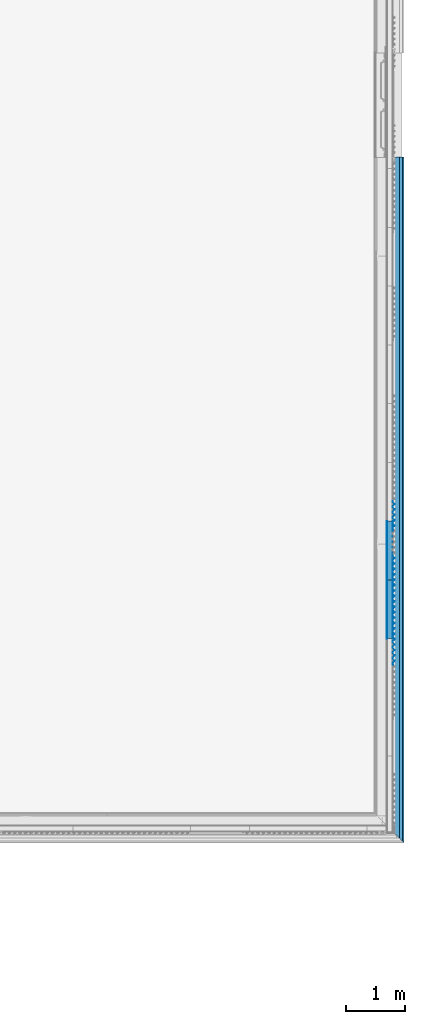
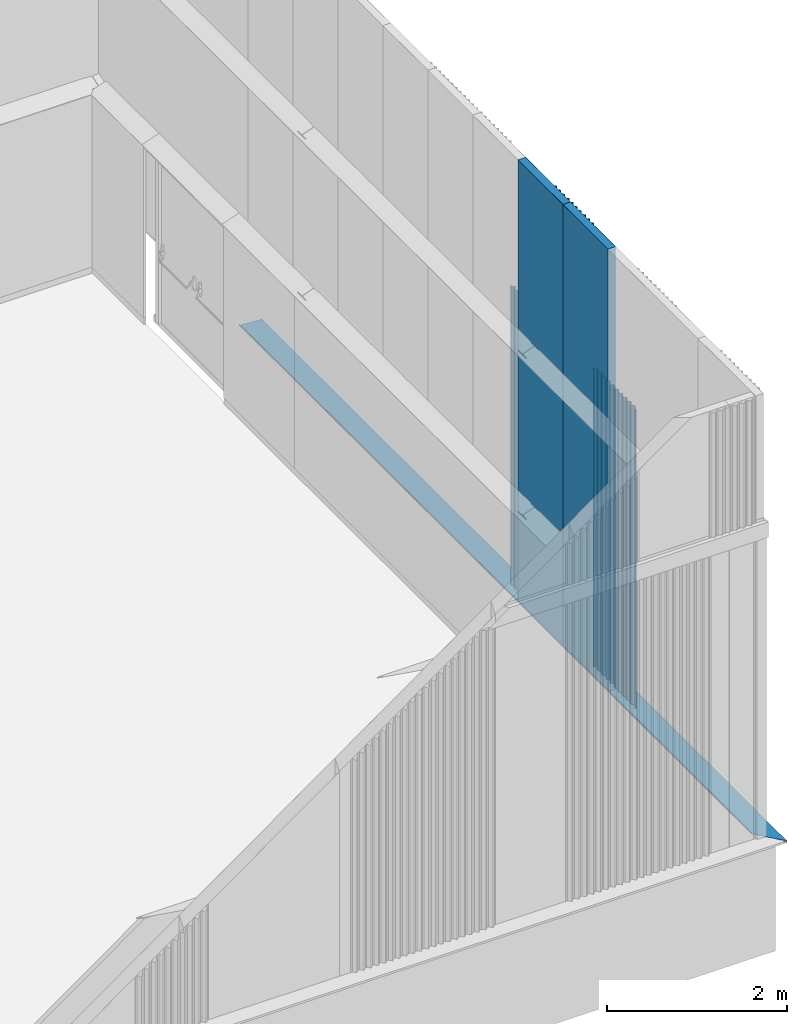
# One storey, part 103 of 338: 13 building element parts, 6 elements without a shape of their own.
"""IFC2X3 building model written with IfcOpenShell, lengths in millimetres."""

from ifc_helpers import new_model, entity, si_unit, converted_unit, derived_unit, money_unit, direction, frame, origin_with_axes, place, context, subcontext, project, spatial, faceted_brep, material, type_object, element, aggregate, save


model = new_model("IFC2X3")

# Units and contexts
model_context = context("Model", 3, precision=0.01, world=origin_with_axes(), true_north=direction((0.0, 1.0)))
plan_context = context("Plan", 3, precision=0.01, world=origin_with_axes(), true_north=direction((0.0, 1.0)))
body_context = subcontext(model_context, "Body", "Model", "MODEL_VIEW")
ifc_project = project(units=[si_unit("LENGTHUNIT", "METRE", prefix="MILLI"), si_unit("AREAUNIT", "SQUARE_METRE"), si_unit("VOLUMEUNIT", "CUBIC_METRE"), converted_unit("PLANEANGLEUNIT", "DEGREE", entity("IfcPlaneAngleMeasure", 0.0174532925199), si_unit("PLANEANGLEUNIT", "RADIAN"), dimensions=[0, 0, 0, 0, 0, 0, 0]), money_unit("EUR"), converted_unit("TIMEUNIT", "Year", entity("IfcTimeMeasure", 31556926.0), si_unit("TIMEUNIT", "SECOND"), dimensions=[0, 0, 1, 0, 0, 0, 0]), si_unit("MASSUNIT", "GRAM", prefix="KILO"), si_unit("THERMODYNAMICTEMPERATUREUNIT", "DEGREE_CELSIUS"), si_unit("LUMINOUSINTENSITYUNIT", "LUMEN"), si_unit("ENERGYUNIT", "JOULE", prefix="MEGA"), derived_unit("THERMALCONDUCTANCEUNIT", [(si_unit("POWERUNIT", "WATT"), 1), (si_unit("LENGTHUNIT", "METRE"), -1), (si_unit("THERMODYNAMICTEMPERATUREUNIT", "KELVIN"), -1)]), derived_unit("SPECIFICHEATCAPACITYUNIT", [(si_unit("ENERGYUNIT", "JOULE"), 1), (si_unit("MASSUNIT", "GRAM", prefix="KILO"), -1), (si_unit("THERMODYNAMICTEMPERATUREUNIT", "KELVIN"), -1)]), derived_unit("MASSDENSITYUNIT", [(si_unit("MASSUNIT", "GRAM", prefix="KILO"), 1), (si_unit("VOLUMEUNIT", "CUBIC_METRE"), -1)])], contexts=[model_context, plan_context])

# Site, building, storey
site_placement = place(None, origin_with_axes())
site = spatial("IfcSite", under=ifc_project, at=site_placement, Name="Fortuinstraat Woensdrecht", CompositionType="ELEMENT")
building_placement = place(site_placement, origin_with_axes())
building = spatial("IfcBuilding", under=site, at=building_placement, Name="IKC Fortuna", CompositionType="ELEMENT")
storey_placement = place(building_placement, origin_with_axes())
storey = spatial("IfcBuildingStorey", under=building, at=storey_placement, Name="00 begane grond", CompositionType="ELEMENT", Elevation=0.0)

# Wall, building element parts
wall_type = type_object("IfcWallType", Name="21 sandwich 100", PredefinedType="NOTDEFINED")
wall_1_placement = place(storey_placement, frame((59433.4270571, 26181.3126832, 1000.0), z_axis=(0.0, 0.0, 1.0), x_axis=(0.0, -1.0, 0.0)))
wall_1 = element("IfcWall", 1, at=wall_1_placement, inside=storey, type_object=wall_type, Name="21_Wand_sandwichplaat")
ifc_material_1 = material(Name="Metaal - Aluminium")
building_element_part_1_placement = place(wall_1_placement, origin_with_axes())
building_element_part_1 = element("IfcBuildingElementPart", 2, at=building_element_part_1_placement, material=ifc_material_1, Name="Metaal - Aluminium", context=body_context, shape_type="Brep", body=[
    faceted_brep([(0.0, 99.0, 6000.0), (1000.0, 99.0, 6000.0), (1000.0, 100.0, 6000.0), (0.0, 100.0, 6000.0), (0.0, 99.0, 0.0), (1000.0, 99.0, 0.0), (1000.0, 100.0, 0.0), (0.0, 100.0, 0.0)], [[[0, 1, 2, 3]], [[4, 5, 1, 0]], [[2, 1, 5, 6]], [[3, 2, 6, 7]], [[4, 0, 3, 7]], [[7, 6, 5, 4]]]),
])
ifc_material_2 = material(Name="Isolatie - Kunststof hard")
building_element_part_2_placement = place(wall_1_placement, origin_with_axes())
building_element_part_2 = element("IfcBuildingElementPart", 3, at=building_element_part_2_placement, material=ifc_material_2, Name="Isolatie - Kunststof hard", context=body_context, shape_type="Brep", body=[
    faceted_brep([(1000.0, 0.999999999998, 6000.0), (1000.0, 99.0, 6000.0), (0.0, 99.0, 6000.0), (0.0, 0.999999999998, 6000.0), (1000.0, 0.999999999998, 0.0), (1000.0, 99.0, 0.0), (0.0, 99.0, 0.0), (0.0, 0.999999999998, 0.0)], [[[0, 1, 2, 3]], [[0, 4, 5, 1]], [[1, 5, 6, 2]], [[3, 2, 6, 7]], [[4, 0, 3, 7]], [[5, 4, 7, 6]]]),
])
building_element_part_3_placement = place(wall_1_placement, origin_with_axes())
building_element_part_3 = element("IfcBuildingElementPart", 4, at=building_element_part_3_placement, material=ifc_material_1, Name="Metaal - Aluminium", context=body_context, shape_type="Brep", body=[
    faceted_brep([(1000.0, 0.0, 6000.0), (0.0, 0.0, 6000.0), (0.0, 7.39461825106e-08, 18.9263474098), (1000.0, 7.1331385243e-08, 18.9263474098), (1000.0, 0.999999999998, 6000.0), (0.0, 0.999999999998, 6000.0), (0.0, 0.999999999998, 18.9261694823), (1000.0, 0.999999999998, 18.9261694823)], [[[0, 1, 2, 3]], [[1, 0, 4, 5]], [[2, 1, 5, 6]], [[3, 2, 6, 7]], [[4, 0, 3, 7]], [[4, 7, 6, 5]]]),
])
aggregate(wall_1, [building_element_part_1, building_element_part_2, building_element_part_3])

wall_2_placement = place(storey_placement, frame((59433.4270571, 25181.3126832, 1000.0), z_axis=(0.0, 0.0, 1.0), x_axis=(0.0, -1.0, 0.0)))
wall_2 = element("IfcWall", 5, at=wall_2_placement, inside=storey, type_object=wall_type, Name="21_Wand_sandwichplaat")
building_element_part_4_placement = place(wall_2_placement, origin_with_axes())
building_element_part_4 = element("IfcBuildingElementPart", 6, at=building_element_part_4_placement, material=ifc_material_1, Name="Metaal - Aluminium", context=body_context, shape_type="Brep", body=[
    faceted_brep([(0.0, 99.0, 6000.0), (1000.0, 99.0, 6000.0), (1000.0, 100.0, 6000.0), (0.0, 100.0, 6000.0), (0.0, 99.0, 0.0), (1000.0, 99.0, 0.0), (1000.0, 100.0, 0.0), (0.0, 100.0, 0.0)], [[[0, 1, 2, 3]], [[4, 5, 1, 0]], [[2, 1, 5, 6]], [[3, 2, 6, 7]], [[4, 0, 3, 7]], [[7, 6, 5, 4]]]),
])
building_element_part_5_placement = place(wall_2_placement, origin_with_axes())
building_element_part_5 = element("IfcBuildingElementPart", 7, at=building_element_part_5_placement, material=ifc_material_2, Name="Isolatie - Kunststof hard", context=body_context, shape_type="Brep", body=[
    faceted_brep([(1000.0, 0.999999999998, 6000.0), (1000.0, 99.0, 6000.0), (0.0, 99.0, 6000.0), (0.0, 0.999999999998, 6000.0), (1000.0, 0.999999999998, 0.0), (1000.0, 99.0, 0.0), (0.0, 99.0, 0.0), (0.0, 0.999999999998, 0.0)], [[[0, 1, 2, 3]], [[0, 4, 5, 1]], [[1, 5, 6, 2]], [[3, 2, 6, 7]], [[4, 0, 3, 7]], [[5, 4, 7, 6]]]),
])
building_element_part_6_placement = place(wall_2_placement, origin_with_axes())
building_element_part_6 = element("IfcBuildingElementPart", 8, at=building_element_part_6_placement, material=ifc_material_1, Name="Metaal - Aluminium", context=body_context, shape_type="Brep", body=[
    faceted_brep([(1000.0, 0.0, 6000.0), (0.0, 0.0, 6000.0), (0.0, 7.1331385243e-08, 18.9263474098), (1000.0, 6.8709482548e-08, 18.9263474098), (1000.0, 0.999999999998, 6000.0), (0.0, 0.999999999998, 6000.0), (0.0, 0.999999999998, 18.9261694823), (1000.0, 0.999999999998, 18.9261694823)], [[[0, 1, 2, 3]], [[1, 0, 4, 5]], [[2, 1, 5, 6]], [[3, 2, 6, 7]], [[0, 3, 7, 4]], [[5, 4, 7, 6]]]),
])
aggregate(wall_2, [building_element_part_4, building_element_part_5, building_element_part_6])

# Beam, building element parts
beam_type = type_object("IfcBeamType", Name="41 Waterslag SW - MW 290 x 65", PredefinedType="BEAM")
beam_placement = place(storey_placement, frame((59433.4270571, 32375.3126656, 1018.9295501), z_axis=(0.0, 0.0, 1.0), x_axis=(-1.0, 0.0, 0.0)))
beam = element("IfcBeam", 9, at=beam_placement, inside=storey, type_object=beam_type, Name="28_Balk_UNP203", ObjectType="BEAM")
building_element_part_7_placement = place(beam_placement, origin_with_axes())
building_element_part_7 = element("IfcBuildingElementPart", 10, at=building_element_part_7_placement, material=ifc_material_1, Name="Metaal - Aluminium", context=body_context, shape_type="Brep", body=[
    faceted_brep([(0.00375728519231, 11379.0122801, -21.1201540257), (0.0, 11379.0160373, -0.00320269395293), (-2.29647412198e-08, 2606.41544219, -0.00320269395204), (-2.29647412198e-08, 2590.50250229, -21.1203871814), (-289.001821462, 11668.0178588, -39.0540858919), (-288.997373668, 11668.013411, -64.0514212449), (-269.997377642, 11649.013415, -64.0444820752), (-269.997199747, 11649.0132371, -65.0443041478), (-289.997195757, 11669.0132331, -65.0514212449), (-290.001988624, 11669.018026, -38.1142266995), (-0.996409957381, 11380.0124473, -20.1802948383), (-0.999999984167, 11380.0160373, -0.0033806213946), (-0.999999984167, 0.0, -0.0033806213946), (0.0, 0.0, -0.00320269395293), (-2.29647412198e-08, 2531.2873027, -0.00320269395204), (0.00375728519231, 2515.3745385, -21.1201540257), (0.00375728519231, 0.0, -21.1201540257), (-289.001821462, 0.0, -39.0540858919), (-288.997373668, 0.0, -64.0514212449), (-269.997377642, 0.0, -64.0444820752), (-269.997199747, 0.0, -65.0443041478), (-289.997195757, 0.0, -65.0514212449), (-290.001988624, 0.0, -38.1142266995), (-0.996409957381, 0.0, -20.1802948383)], [[[0, 1, 2, 3]], [[1, 0, 4, 5, 6, 7, 8, 9, 10, 11]], [[2, 1, 11, 12, 13, 14]], [[15, 3, 2, 14]], [[0, 3, 15, 16, 17, 4]], [[5, 4, 17, 18]], [[6, 5, 18, 19]], [[7, 6, 19, 20]], [[7, 20, 21, 8]], [[9, 8, 21, 22]], [[23, 10, 9, 22]], [[11, 10, 23, 12]], [[16, 13, 12, 23, 22, 21, 20, 19, 18, 17]], [[15, 14, 13, 16]]]),
])
building_element_part_8_placement = place(beam_placement, origin_with_axes())
building_element_part_8 = element("IfcBuildingElementPart", 11, at=building_element_part_8_placement, material=ifc_material_1, Name="Metaal - Aluminium", context=body_context, shape_type="Brep", body=[
    faceted_brep([(-287.321068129, 11666.3371055, -62.942550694), (-259.995211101, 11639.0112484, -44.989324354), (-259.995211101, 0.0, -44.989324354), (-287.321068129, 0.0, -62.942550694), (-287.870165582, 11666.8862029, -62.1067923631), (-260.294323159, 11639.3103605, -43.989324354), (-209.995211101, 11589.0112484, -43.989324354), (-209.995211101, 11589.0112484, -44.989324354), (-209.995211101, 0.0, -44.989324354), (-209.995211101, 0.0, -43.989324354), (-260.294323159, 0.0, -43.989324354), (-287.870165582, 0.0, -62.1067923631)], [[[0, 1, 2, 3]], [[0, 4, 5, 6, 7, 1]], [[1, 7, 8, 2]], [[3, 2, 8, 9, 10, 11]], [[4, 0, 3, 11]], [[5, 4, 11, 10]], [[6, 5, 10, 9]], [[7, 6, 9, 8]]]),
])
aggregate(beam, [building_element_part_7, building_element_part_8])

# Proxy, building element part
building_element_proxy_type = type_object("IfcBuildingElementProxyType", Name="21 Sandwich custom pyramid 946 x 37", PredefinedType="NOTDEFINED")
proxy_1_placement = place(storey_placement, frame((59533.4270571, 26523.6060069, 1000.0), z_axis=(0.0, 0.0, 1.0), x_axis=(0.0, -1.0, 0.0)))
proxy_1 = element("IfcBuildingElementProxy", 12, at=proxy_1_placement, inside=storey, type_object=building_element_proxy_type, Name="41_Generieke bekleding & afwerking buiten_sandwich custom pyramid")
building_element_part_9_placement = place(proxy_1_placement, origin_with_axes())
building_element_part_9 = element("IfcBuildingElementPart", 13, at=building_element_part_9_placement, material=ifc_material_1, Name="Metaal - Aluminium", context=body_context, shape_type="Brep", body=[
    faceted_brep([(0.0, 2.39999686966, 0.0), (0.0, 1.20000548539, 0.0), (0.0, 1.20000548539, 4060.85690076), (0.0, 2.39999686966, 4060.85690076), (16.7470988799, 2.39999686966, 0.0), (52.0000026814, 36.6736482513, 0.0), (88.487191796, 1.20000548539, 0.0), (107.51282048, 1.20000548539, 0.0), (143.999995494, 36.6736482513, 0.0), (180.487184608, 1.20000548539, 0.0), (199.512813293, 1.20000548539, 0.0), (236.000002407, 36.6736482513, 0.0), (272.487191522, 1.20000548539, 0.0), (291.512820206, 1.20000548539, 0.0), (327.99999522, 36.6736482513, 0.0), (364.487184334, 1.20000548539, 0.0), (383.512813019, 1.20000548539, 0.0), (420.000002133, 36.6736482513, 0.0), (456.487191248, 1.20000548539, 0.0), (460.000006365, 1.20000548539, 0.0), (477.23428491, 1.20000548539, 0.0), (485.472879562, 9.20975302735, 0.0), (486.309372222, 8.34935896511, 0.0), (477.721464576, 0.0, 0.0), (455.999997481, 0.0, 0.0), (420.000002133, 35.0000001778, 0.0), (384.000006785, 0.0, 0.0), (364.000004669, 0.0, 0.0), (327.99999522, 35.0000001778, 0.0), (291.999999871, 0.0, 0.0), (271.999997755, 0.0, 0.0), (236.000002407, 35.0000001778, 0.0), (199.999992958, 0.0, 0.0), (180.000004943, 0.0, 0.0), (143.999995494, 35.0000001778, 0.0), (108.000000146, 0.0, 0.0), (87.9999980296, 0.0, 0.0), (52.0000026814, 35.0000001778, 0.0), (17.2342926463, 1.20000548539, 0.0), (17.2342926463, 1.20000548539, 4060.85690076), (52.0000026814, 35.0000001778, 4060.85690076), (87.9999980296, 0.0, 4060.85690076), (108.000000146, 0.0, 4060.85690076), (143.999995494, 35.0000001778, 4060.85690076), (180.000004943, 0.0, 4060.85690076), (199.999992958, 0.0, 4060.85690076), (236.000002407, 35.0000001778, 4060.85690076), (271.999997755, 0.0, 4060.85690076), (291.999999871, 0.0, 4060.85690076), (327.99999522, 35.0000001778, 4060.85690076), (364.000004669, 0.0, 4060.85690076), (384.000006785, 0.0, 4060.85690076), (420.000002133, 35.0000001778, 4060.85690076), (455.999997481, 0.0, 4060.85690076), (477.721464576, 0.0, 4060.85690076), (486.309372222, 8.34935896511, 4060.85690076), (485.472879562, 9.20975302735, 4060.85690076), (477.23428491, 1.20000548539, 4060.85690076), (460.000006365, 1.20000548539, 4060.85690076), (456.487191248, 1.20000548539, 4060.85690076), (420.000002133, 36.6736482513, 4060.85690076), (383.512813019, 1.20000548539, 4060.85690076), (364.487184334, 1.20000548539, 4060.85690076), (327.99999522, 36.6736482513, 4060.85690076), (291.512820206, 1.20000548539, 4060.85690076), (272.487191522, 1.20000548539, 4060.85690076), (236.000002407, 36.6736482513, 4060.85690076), (199.512813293, 1.20000548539, 4060.85690076), (180.487184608, 1.20000548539, 4060.85690076), (143.999995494, 36.6736482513, 4060.85690076), (107.51282048, 1.20000548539, 4060.85690076), (88.487191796, 1.20000548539, 4060.85690076), (52.0000026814, 36.6736482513, 4060.85690076), (16.7470988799, 2.39999686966, 4060.85690076)], [[[0, 1, 2, 3]], [[0, 4, 5, 6, 7, 8, 9, 10, 11, 12, 13, 14, 15, 16, 17, 18, 19, 20, 21, 22, 23, 24, 25, 26, 27, 28, 29, 30, 31, 32, 33, 34, 35, 36, 37, 38, 1]], [[1, 38, 39, 2]], [[3, 2, 39, 40, 41, 42, 43, 44, 45, 46, 47, 48, 49, 50, 51, 52, 53, 54, 55, 56, 57, 58, 59, 60, 61, 62, 63, 64, 65, 66, 67, 68, 69, 70, 71, 72, 73]], [[4, 0, 3, 73]], [[5, 4, 73, 72]], [[6, 5, 72, 71]], [[7, 6, 71, 70]], [[8, 7, 70, 69]], [[9, 8, 69, 68]], [[10, 9, 68, 67]], [[11, 10, 67, 66]], [[12, 11, 66, 65]], [[13, 12, 65, 64]], [[14, 13, 64, 63]], [[15, 14, 63, 62]], [[16, 15, 62, 61]], [[17, 16, 61, 60]], [[18, 17, 60, 59]], [[19, 18, 59, 58]], [[20, 19, 58, 57]], [[21, 20, 57, 56]], [[22, 21, 56, 55]], [[23, 22, 55, 54]], [[24, 23, 54, 53]], [[25, 24, 53, 52]], [[26, 25, 52, 51]], [[27, 26, 51, 50]], [[28, 27, 50, 49]], [[29, 28, 49, 48]], [[30, 29, 48, 47]], [[31, 30, 47, 46]], [[32, 31, 46, 45]], [[33, 32, 45, 44]], [[34, 33, 44, 43]], [[35, 34, 43, 42]], [[36, 35, 42, 41]], [[37, 36, 41, 40]], [[38, 37, 40, 39]]]),
])
aggregate(proxy_1, [building_element_part_9])

# Proxy, building element parts
proxy_2_placement = place(storey_placement, frame((59533.4270571, 24683.6060069, 1000.0), z_axis=(0.0, 0.0, 1.0), x_axis=(0.0, -1.0, 0.0)))
proxy_2 = element("IfcBuildingElementProxy", 14, at=proxy_2_placement, inside=storey, type_object=building_element_proxy_type, Name="41_Generieke bekleding & afwerking buiten_sandwich custom pyramid")
building_element_part_10_placement = place(proxy_2_placement, origin_with_axes())
building_element_part_10 = element("IfcBuildingElementPart", 15, at=building_element_part_10_placement, material=ifc_material_1, Name="Metaal - Aluminium", context=body_context, shape_type="Brep", body=[
    faceted_brep([(0.0, 2.39999686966, 0.0), (0.0, 1.20000548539, 0.0), (0.0, 1.20000548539, 4060.85690076), (0.0, 2.39999686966, 4060.85690076), (16.7470988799, 2.39999686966, 0.0), (52.0000026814, 36.6736482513, 0.0), (88.487191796, 1.20000548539, 0.0), (107.51282048, 1.20000548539, 0.0), (143.999995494, 36.6736482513, 0.0), (180.487184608, 1.20000548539, 0.0), (199.512813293, 1.20000548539, 0.0), (236.000002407, 36.6736482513, 0.0), (272.487191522, 1.20000548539, 0.0), (291.512820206, 1.20000548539, 0.0), (327.99999522, 36.6736482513, 0.0), (364.487184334, 1.20000548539, 0.0), (383.512813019, 1.20000548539, 0.0), (420.000002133, 36.6736482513, 0.0), (456.487191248, 1.20000548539, 0.0), (460.000006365, 1.20000548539, 0.0), (477.23428491, 1.20000548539, 0.0), (485.472879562, 9.20975302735, 0.0), (486.309372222, 8.34935896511, 0.0), (477.721464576, 0.0, 0.0), (455.999997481, 0.0, 0.0), (420.000002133, 35.0000001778, 0.0), (384.000006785, 0.0, 0.0), (364.000004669, 0.0, 0.0), (327.99999522, 35.0000001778, 0.0), (291.999999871, 0.0, 0.0), (271.999997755, 0.0, 0.0), (236.000002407, 35.0000001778, 0.0), (199.999992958, 0.0, 0.0), (180.000004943, 0.0, 0.0), (143.999995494, 35.0000001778, 0.0), (108.000000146, 0.0, 0.0), (87.9999980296, 0.0, 0.0), (52.0000026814, 35.0000001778, 0.0), (17.2342926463, 1.20000548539, 0.0), (17.2342926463, 1.20000548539, 4060.85690076), (52.0000026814, 35.0000001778, 4060.85690076), (87.9999980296, 0.0, 4060.85690076), (108.000000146, 0.0, 4060.85690076), (143.999995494, 35.0000001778, 4060.85690076), (180.000004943, 0.0, 4060.85690076), (199.999992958, 0.0, 4060.85690076), (236.000002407, 35.0000001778, 4060.85690076), (271.999997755, 0.0, 4060.85690076), (291.999999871, 0.0, 4060.85690076), (327.99999522, 35.0000001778, 4060.85690076), (364.000004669, 0.0, 4060.85690076), (384.000006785, 0.0, 4060.85690076), (420.000002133, 35.0000001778, 4060.85690076), (455.999997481, 0.0, 4060.85690076), (477.721464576, 0.0, 4060.85690076), (486.309372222, 8.34935896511, 4060.85690076), (485.472879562, 9.20975302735, 4060.85690076), (477.23428491, 1.20000548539, 4060.85690076), (460.000006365, 1.20000548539, 4060.85690076), (456.487191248, 1.20000548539, 4060.85690076), (420.000002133, 36.6736482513, 4060.85690076), (383.512813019, 1.20000548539, 4060.85690076), (364.487184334, 1.20000548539, 4060.85690076), (327.99999522, 36.6736482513, 4060.85690076), (291.512820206, 1.20000548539, 4060.85690076), (272.487191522, 1.20000548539, 4060.85690076), (236.000002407, 36.6736482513, 4060.85690076), (199.512813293, 1.20000548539, 4060.85690076), (180.487184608, 1.20000548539, 4060.85690076), (143.999995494, 36.6736482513, 4060.85690076), (107.51282048, 1.20000548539, 4060.85690076), (88.487191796, 1.20000548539, 4060.85690076), (52.0000026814, 36.6736482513, 4060.85690076), (16.7470988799, 2.39999686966, 4060.85690076)], [[[0, 1, 2, 3]], [[0, 4, 5, 6, 7, 8, 9, 10, 11, 12, 13, 14, 15, 16, 17, 18, 19, 20, 21, 22, 23, 24, 25, 26, 27, 28, 29, 30, 31, 32, 33, 34, 35, 36, 37, 38, 1]], [[1, 38, 39, 2]], [[3, 2, 39, 40, 41, 42, 43, 44, 45, 46, 47, 48, 49, 50, 51, 52, 53, 54, 55, 56, 57, 58, 59, 60, 61, 62, 63, 64, 65, 66, 67, 68, 69, 70, 71, 72, 73]], [[4, 0, 3, 73]], [[5, 4, 73, 72]], [[6, 5, 72, 71]], [[7, 6, 71, 70]], [[8, 7, 70, 69]], [[9, 8, 69, 68]], [[10, 9, 68, 67]], [[11, 10, 67, 66]], [[12, 11, 66, 65]], [[13, 12, 65, 64]], [[14, 13, 64, 63]], [[15, 14, 63, 62]], [[16, 15, 62, 61]], [[17, 16, 61, 60]], [[18, 17, 60, 59]], [[19, 18, 59, 58]], [[20, 19, 58, 57]], [[21, 20, 57, 56]], [[22, 21, 56, 55]], [[23, 22, 55, 54]], [[24, 23, 54, 53]], [[25, 24, 53, 52]], [[26, 25, 52, 51]], [[27, 26, 51, 50]], [[28, 27, 50, 49]], [[29, 28, 49, 48]], [[30, 29, 48, 47]], [[31, 30, 47, 46]], [[32, 31, 46, 45]], [[33, 32, 45, 44]], [[34, 33, 44, 43]], [[35, 34, 43, 42]], [[36, 35, 42, 41]], [[37, 36, 41, 40]], [[38, 37, 40, 39]]]),
])
building_element_part_11_placement = place(proxy_2_placement, origin_with_axes())
building_element_part_11 = element("IfcBuildingElementPart", 16, at=building_element_part_11_placement, material=ifc_material_1, Name="Metaal - Aluminium", context=body_context, shape_type="Brep", body=[
    faceted_brep([(460.0, 1.2, 0.0), (477.234285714, 1.2, 0.0), (477.234285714, 1.2, 4060.85690076), (460.0, 1.2, 4060.85690076), (460.0, 2.4, 0.0), (476.747100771, 2.4, 0.0), (512.0, 36.6736520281, 0.0), (548.487184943, 1.2, 0.0), (567.512815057, 1.2, 0.0), (604.0, 36.6736520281, 0.0), (640.487184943, 1.2, 0.0), (659.512815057, 1.2, 0.0), (696.0, 36.6736520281, 0.0), (732.487184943, 1.2, 0.0), (751.512815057, 1.2, 0.0), (788.0, 36.6736520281, 0.0), (824.487184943, 1.2, 0.0), (843.512815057, 1.2, 0.0), (880.0, 36.6736520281, 0.0), (916.487184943, 1.2, 0.0), (937.234285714, 1.2, 0.0), (945.472884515, 9.20974883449, 0.0), (946.309378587, 8.34935493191, 0.0), (937.721470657, 0.0, 0.0), (916.0, 0.0, 0.0), (880.0, 35.0, 0.0), (844.0, 0.0, 0.0), (824.0, 0.0, 0.0), (788.0, 35.0, 0.0), (752.0, 0.0, 0.0), (732.0, 0.0, 0.0), (696.0, 35.0, 0.0), (660.0, 0.0, 0.0), (640.0, 0.0, 0.0), (604.0, 35.0, 0.0), (568.0, 0.0, 0.0), (548.0, 0.0, 0.0), (512.0, 35.0, 0.0), (485.472879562, 9.20975302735, 0.0), (485.472879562, 9.20975302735, 4060.85690076), (512.0, 35.0, 4060.85690076), (548.0, 0.0, 4060.85690076), (568.0, 0.0, 4060.85690076), (604.0, 35.0, 4060.85690076), (640.0, 0.0, 4060.85690076), (660.0, 0.0, 4060.85690076), (696.0, 35.0, 4060.85690076), (732.0, 0.0, 4060.85690076), (752.0, 0.0, 4060.85690076), (788.0, 35.0, 4060.85690076), (824.0, 0.0, 4060.85690076), (844.0, 0.0, 4060.85690076), (880.0, 35.0, 4060.85690076), (916.0, 0.0, 4060.85690076), (937.721470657, 0.0, 4060.85690076), (946.309378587, 8.34935493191, 4060.85690076), (945.472884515, 9.20974883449, 4060.85690076), (937.234285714, 1.2, 4060.85690076), (916.487184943, 1.2, 4060.85690076), (880.0, 36.6736520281, 4060.85690076), (843.512815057, 1.2, 4060.85690076), (824.487184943, 1.2, 4060.85690076), (788.0, 36.6736520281, 4060.85690076), (751.512815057, 1.2, 4060.85690076), (732.487184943, 1.2, 4060.85690076), (696.0, 36.6736520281, 4060.85690076), (659.512815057, 1.2, 4060.85690076), (640.487184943, 1.2, 4060.85690076), (604.0, 36.6736520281, 4060.85690076), (567.512815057, 1.2, 4060.85690076), (548.487184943, 1.2, 4060.85690076), (512.0, 36.6736520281, 4060.85690076), (476.747100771, 2.4, 4060.85690076), (460.0, 2.4, 4060.85690076)], [[[0, 1, 2, 3]], [[0, 4, 5, 6, 7, 8, 9, 10, 11, 12, 13, 14, 15, 16, 17, 18, 19, 20, 21, 22, 23, 24, 25, 26, 27, 28, 29, 30, 31, 32, 33, 34, 35, 36, 37, 38, 1]], [[1, 38, 39, 2]], [[3, 2, 39, 40, 41, 42, 43, 44, 45, 46, 47, 48, 49, 50, 51, 52, 53, 54, 55, 56, 57, 58, 59, 60, 61, 62, 63, 64, 65, 66, 67, 68, 69, 70, 71, 72, 73]], [[4, 0, 3, 73]], [[5, 4, 73, 72]], [[6, 5, 72, 71]], [[7, 6, 71, 70]], [[8, 7, 70, 69]], [[9, 8, 69, 68]], [[10, 9, 68, 67]], [[11, 10, 67, 66]], [[12, 11, 66, 65]], [[13, 12, 65, 64]], [[14, 13, 64, 63]], [[15, 14, 63, 62]], [[16, 15, 62, 61]], [[17, 16, 61, 60]], [[18, 17, 60, 59]], [[19, 18, 59, 58]], [[20, 19, 58, 57]], [[21, 20, 57, 56]], [[22, 21, 56, 55]], [[23, 22, 55, 54]], [[24, 23, 54, 53]], [[25, 24, 53, 52]], [[26, 25, 52, 51]], [[27, 26, 51, 50]], [[28, 27, 50, 49]], [[29, 28, 49, 48]], [[30, 29, 48, 47]], [[31, 30, 47, 46]], [[32, 31, 46, 45]], [[33, 32, 45, 44]], [[34, 33, 44, 43]], [[35, 34, 43, 42]], [[36, 35, 42, 41]], [[37, 36, 41, 40]], [[38, 37, 40, 39]]]),
])
aggregate(proxy_2, [building_element_part_10, building_element_part_11])

proxy_3_placement = place(storey_placement, frame((59533.4270571, 25603.6060069, 5289.99999237), z_axis=(0.0, 0.0, 1.0), x_axis=(0.0, -1.0, 0.0)))
proxy_3 = element("IfcBuildingElementProxy", 17, at=proxy_3_placement, inside=storey, type_object=building_element_proxy_type, Name="41_Generieke bekleding & afwerking buiten_sandwich custom pyramid")
building_element_part_12_placement = place(proxy_3_placement, origin_with_axes())
building_element_part_12 = element("IfcBuildingElementPart", 18, at=building_element_part_12_placement, material=ifc_material_1, Name="Metaal - Aluminium", context=body_context, shape_type="Brep", body=[
    faceted_brep([(0.0, 2.39999686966, 0.0), (0.0, 1.20000548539, 0.0), (0.0, 1.20000548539, 1690.00000566), (0.0, 2.39999686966, 1690.00000566), (16.7470988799, 2.39999686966, 0.0), (52.0000026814, 36.6736482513, 0.0), (88.487191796, 1.20000548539, 0.0), (107.51282048, 1.20000548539, 0.0), (143.999995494, 36.6736482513, 0.0), (180.487184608, 1.20000548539, 0.0), (199.512813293, 1.20000548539, 0.0), (236.000002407, 36.6736482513, 0.0), (272.487191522, 1.20000548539, 0.0), (291.512820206, 1.20000548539, 0.0), (327.99999522, 36.6736482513, 0.0), (364.487184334, 1.20000548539, 0.0), (383.512813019, 1.20000548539, 0.0), (420.000002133, 36.6736482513, 0.0), (456.487191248, 1.20000548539, 0.0), (460.000006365, 1.20000548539, 0.0), (477.23428491, 1.20000548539, 0.0), (485.472879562, 9.20975302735, 0.0), (486.309372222, 8.34935896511, 0.0), (477.721464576, 0.0, 0.0), (455.999997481, 0.0, 0.0), (420.000002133, 35.0000001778, 0.0), (384.000006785, 0.0, 0.0), (364.000004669, 0.0, 0.0), (327.99999522, 35.0000001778, 0.0), (291.999999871, 0.0, 0.0), (271.999997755, 0.0, 0.0), (236.000002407, 35.0000001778, 0.0), (199.999992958, 0.0, 0.0), (180.000004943, 0.0, 0.0), (143.999995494, 35.0000001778, 0.0), (108.000000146, 0.0, 0.0), (87.9999980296, 0.0, 0.0), (52.0000026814, 35.0000001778, 0.0), (17.2342926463, 1.20000548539, 0.0), (17.2342926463, 1.20000548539, 1690.00000566), (52.0000026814, 35.0000001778, 1690.00000566), (87.9999980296, 0.0, 1690.00000566), (108.000000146, 0.0, 1690.00000566), (143.999995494, 35.0000001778, 1690.00000566), (180.000004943, 0.0, 1690.00000566), (199.999992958, 0.0, 1690.00000566), (236.000002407, 35.0000001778, 1690.00000566), (271.999997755, 0.0, 1690.00000566), (291.999999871, 0.0, 1690.00000566), (327.99999522, 35.0000001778, 1690.00000566), (364.000004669, 0.0, 1690.00000566), (384.000006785, 0.0, 1690.00000566), (420.000002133, 35.0000001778, 1690.00000566), (455.999997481, 0.0, 1690.00000566), (477.721464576, 0.0, 1690.00000566), (486.309372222, 8.34935896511, 1690.00000566), (485.472879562, 9.20975302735, 1690.00000566), (477.23428491, 1.20000548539, 1690.00000566), (460.000006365, 1.20000548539, 1690.00000566), (456.487191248, 1.20000548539, 1690.00000566), (420.000002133, 36.6736482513, 1690.00000566), (383.512813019, 1.20000548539, 1690.00000566), (364.487184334, 1.20000548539, 1690.00000566), (327.99999522, 36.6736482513, 1690.00000566), (291.512820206, 1.20000548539, 1690.00000566), (272.487191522, 1.20000548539, 1690.00000566), (236.000002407, 36.6736482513, 1690.00000566), (199.512813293, 1.20000548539, 1690.00000566), (180.487184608, 1.20000548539, 1690.00000566), (143.999995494, 36.6736482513, 1690.00000566), (107.51282048, 1.20000548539, 1690.00000566), (88.487191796, 1.20000548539, 1690.00000566), (52.0000026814, 36.6736482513, 1690.00000566), (16.7470988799, 2.39999686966, 1690.00000566)], [[[0, 1, 2, 3]], [[0, 4, 5, 6, 7, 8, 9, 10, 11, 12, 13, 14, 15, 16, 17, 18, 19, 20, 21, 22, 23, 24, 25, 26, 27, 28, 29, 30, 31, 32, 33, 34, 35, 36, 37, 38, 1]], [[1, 38, 39, 2]], [[3, 2, 39, 40, 41, 42, 43, 44, 45, 46, 47, 48, 49, 50, 51, 52, 53, 54, 55, 56, 57, 58, 59, 60, 61, 62, 63, 64, 65, 66, 67, 68, 69, 70, 71, 72, 73]], [[4, 0, 3, 73]], [[5, 4, 73, 72]], [[6, 5, 72, 71]], [[7, 6, 71, 70]], [[8, 7, 70, 69]], [[9, 8, 69, 68]], [[10, 9, 68, 67]], [[11, 10, 67, 66]], [[12, 11, 66, 65]], [[13, 12, 65, 64]], [[14, 13, 64, 63]], [[15, 14, 63, 62]], [[16, 15, 62, 61]], [[17, 16, 61, 60]], [[18, 17, 60, 59]], [[19, 18, 59, 58]], [[20, 19, 58, 57]], [[21, 20, 57, 56]], [[22, 21, 56, 55]], [[23, 22, 55, 54]], [[24, 23, 54, 53]], [[25, 24, 53, 52]], [[26, 25, 52, 51]], [[27, 26, 51, 50]], [[28, 27, 50, 49]], [[29, 28, 49, 48]], [[30, 29, 48, 47]], [[31, 30, 47, 46]], [[32, 31, 46, 45]], [[33, 32, 45, 44]], [[34, 33, 44, 43]], [[35, 34, 43, 42]], [[36, 35, 42, 41]], [[37, 36, 41, 40]], [[38, 37, 40, 39]]]),
])
building_element_part_13_placement = place(proxy_3_placement, origin_with_axes())
building_element_part_13 = element("IfcBuildingElementPart", 19, at=building_element_part_13_placement, material=ifc_material_1, Name="Metaal - Aluminium", context=body_context, shape_type="Brep", body=[
    faceted_brep([(460.0, 1.2, 0.0), (477.234285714, 1.2, 0.0), (477.234285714, 1.2, 1690.00000566), (460.0, 1.2, 1690.00000566), (460.0, 2.4, 0.0), (476.747100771, 2.4, 0.0), (512.0, 36.6736520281, 0.0), (548.487184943, 1.2, 0.0), (567.512815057, 1.2, 0.0), (604.0, 36.6736520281, 0.0), (640.487184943, 1.2, 0.0), (659.512815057, 1.2, 0.0), (696.0, 36.6736520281, 0.0), (732.487184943, 1.2, 0.0), (751.512815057, 1.2, 0.0), (788.0, 36.6736520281, 0.0), (824.487184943, 1.2, 0.0), (843.512815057, 1.2, 0.0), (880.0, 36.6736520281, 0.0), (916.487184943, 1.2, 0.0), (937.234285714, 1.2, 0.0), (945.472884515, 9.20974883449, 0.0), (946.309378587, 8.34935493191, 0.0), (937.721470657, 0.0, 0.0), (916.0, 0.0, 0.0), (880.0, 35.0, 0.0), (844.0, 0.0, 0.0), (824.0, 0.0, 0.0), (788.0, 35.0, 0.0), (752.0, 0.0, 0.0), (732.0, 0.0, 0.0), (696.0, 35.0, 0.0), (660.0, 0.0, 0.0), (640.0, 0.0, 0.0), (604.0, 35.0, 0.0), (568.0, 0.0, 0.0), (548.0, 0.0, 0.0), (512.0, 35.0, 0.0), (485.472879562, 9.20975302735, 0.0), (485.472879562, 9.20975302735, 1690.00000566), (512.0, 35.0, 1690.00000566), (548.0, 0.0, 1690.00000566), (568.0, 0.0, 1690.00000566), (604.0, 35.0, 1690.00000566), (640.0, 0.0, 1690.00000566), (660.0, 0.0, 1690.00000566), (696.0, 35.0, 1690.00000566), (732.0, 0.0, 1690.00000566), (752.0, 0.0, 1690.00000566), (788.0, 35.0, 1690.00000566), (824.0, 0.0, 1690.00000566), (844.0, 0.0, 1690.00000566), (880.0, 35.0, 1690.00000566), (916.0, 0.0, 1690.00000566), (937.721470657, 0.0, 1690.00000566), (946.309378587, 8.34935493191, 1690.00000566), (945.472884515, 9.20974883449, 1690.00000566), (937.234285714, 1.2, 1690.00000566), (916.487184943, 1.2, 1690.00000566), (880.0, 36.6736520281, 1690.00000566), (843.512815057, 1.2, 1690.00000566), (824.487184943, 1.2, 1690.00000566), (788.0, 36.6736520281, 1690.00000566), (751.512815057, 1.2, 1690.00000566), (732.487184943, 1.2, 1690.00000566), (696.0, 36.6736520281, 1690.00000566), (659.512815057, 1.2, 1690.00000566), (640.487184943, 1.2, 1690.00000566), (604.0, 36.6736520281, 1690.00000566), (567.512815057, 1.2, 1690.00000566), (548.487184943, 1.2, 1690.00000566), (512.0, 36.6736520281, 1690.00000566), (476.747100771, 2.4, 1690.00000566), (460.0, 2.4, 1690.00000566)], [[[0, 1, 2, 3]], [[0, 4, 5, 6, 7, 8, 9, 10, 11, 12, 13, 14, 15, 16, 17, 18, 19, 20, 21, 22, 23, 24, 25, 26, 27, 28, 29, 30, 31, 32, 33, 34, 35, 36, 37, 38, 1]], [[1, 38, 39, 2]], [[3, 2, 39, 40, 41, 42, 43, 44, 45, 46, 47, 48, 49, 50, 51, 52, 53, 54, 55, 56, 57, 58, 59, 60, 61, 62, 63, 64, 65, 66, 67, 68, 69, 70, 71, 72, 73]], [[4, 0, 3, 73]], [[5, 4, 73, 72]], [[6, 5, 72, 71]], [[7, 6, 71, 70]], [[8, 7, 70, 69]], [[9, 8, 69, 68]], [[10, 9, 68, 67]], [[11, 10, 67, 66]], [[12, 11, 66, 65]], [[13, 12, 65, 64]], [[14, 13, 64, 63]], [[15, 14, 63, 62]], [[16, 15, 62, 61]], [[17, 16, 61, 60]], [[18, 17, 60, 59]], [[19, 18, 59, 58]], [[20, 19, 58, 57]], [[21, 20, 57, 56]], [[22, 21, 56, 55]], [[23, 22, 55, 54]], [[24, 23, 54, 53]], [[25, 24, 53, 52]], [[26, 25, 52, 51]], [[27, 26, 51, 50]], [[28, 27, 50, 49]], [[29, 28, 49, 48]], [[30, 29, 48, 47]], [[31, 30, 47, 46]], [[32, 31, 46, 45]], [[33, 32, 45, 44]], [[34, 33, 44, 43]], [[35, 34, 43, 42]], [[36, 35, 42, 41]], [[37, 36, 41, 40]], [[38, 37, 40, 39]]]),
])
aggregate(proxy_3, [building_element_part_12, building_element_part_13])

save(model, "model.ifc")
